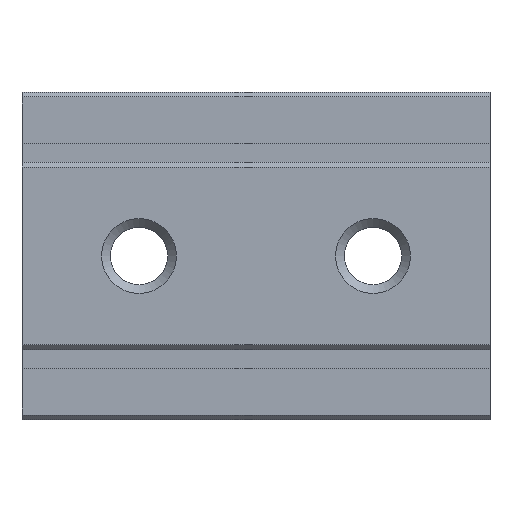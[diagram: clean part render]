
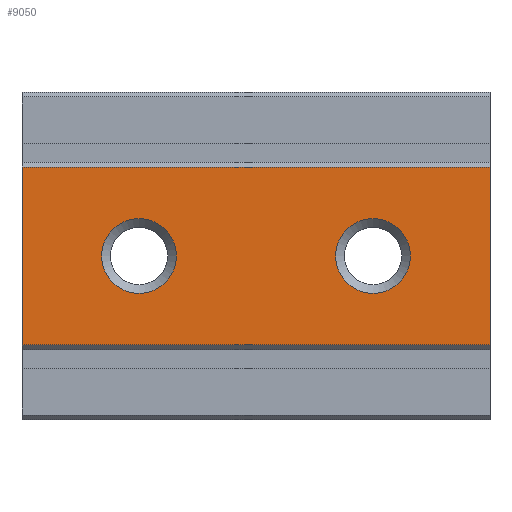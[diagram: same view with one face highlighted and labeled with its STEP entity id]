
A CAD part, front view. The second image highlights one B-rep face of the part: STEP entity #9050.
In plain terms, the highlighted planar face has unit normal (0, -1, 0).
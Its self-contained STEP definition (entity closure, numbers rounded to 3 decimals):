
#43=PLANE('',#9589);
#260=LINE('',#13788,#1066);
#261=LINE('',#13794,#1067);
#262=LINE('',#13796,#1068);
#263=LINE('',#13798,#1069);
#1066=VECTOR('',#10744,1000.);
#1067=VECTOR('',#10751,1000.);
#1068=VECTOR('',#10752,1000.);
#1069=VECTOR('',#10753,1000.);
#1887=ORIENTED_EDGE('',*,*,#4703,.F.);
#1888=ORIENTED_EDGE('',*,*,#4704,.F.);
#1889=ORIENTED_EDGE('',*,*,#4705,.T.);
#1890=ORIENTED_EDGE('',*,*,#4702,.F.);
#1891=ORIENTED_EDGE('',*,*,#4706,.F.);
#1892=ORIENTED_EDGE('',*,*,#4707,.T.);
#4702=EDGE_CURVE('',#6106,#6105,#260,.T.);
#4703=EDGE_CURVE('',#6107,#6107,#7037,.T.);
#4704=EDGE_CURVE('',#6108,#6108,#7038,.T.);
#4705=EDGE_CURVE('',#6109,#6105,#261,.T.);
#4706=EDGE_CURVE('',#6110,#6106,#262,.T.);
#4707=EDGE_CURVE('',#6110,#6109,#263,.T.);
#6105=VERTEX_POINT('',#13785);
#6106=VERTEX_POINT('',#13787);
#6107=VERTEX_POINT('',#13791);
#6108=VERTEX_POINT('',#13793);
#6109=VERTEX_POINT('',#13795);
#6110=VERTEX_POINT('',#13797);
#7037=CIRCLE('',#9590,0.8);
#7038=CIRCLE('',#9591,0.8);
#7648=EDGE_LOOP('',(#1887));
#7649=EDGE_LOOP('',(#1888));
#7650=EDGE_LOOP('',(#1889,#1890,#1891,#1892));
#8200=FACE_BOUND('',#7648,.T.);
#8201=FACE_BOUND('',#7649,.T.);
#8202=FACE_BOUND('',#7650,.T.);
#9050=ADVANCED_FACE('',(#8200,#8201,#8202),#43,.F.);
#9589=AXIS2_PLACEMENT_3D('',#13789,#10745,#10746);
#9590=AXIS2_PLACEMENT_3D('',#13790,#10747,#10748);
#9591=AXIS2_PLACEMENT_3D('',#13792,#10749,#10750);
#10744=DIRECTION('',(-1.,0.,0.));
#10745=DIRECTION('',(0.,1.,0.));
#10746=DIRECTION('',(0.,0.,1.));
#10747=DIRECTION('',(0.,-1.,0.));
#10748=DIRECTION('',(0.,0.,-1.));
#10749=DIRECTION('',(0.,-1.,0.));
#10750=DIRECTION('',(0.,0.,-1.));
#10751=DIRECTION('',(0.,0.,-1.));
#10752=DIRECTION('',(0.,0.,-1.));
#10753=DIRECTION('',(-1.,0.,0.));
#13785=CARTESIAN_POINT('',(-5.,0.,-1.9));
#13787=CARTESIAN_POINT('',(5.,0.,-1.9));
#13788=CARTESIAN_POINT('',(5.,0.,-1.9));
#13789=CARTESIAN_POINT('',(5.,0.,1.9));
#13790=CARTESIAN_POINT('',(2.5,0.,0.));
#13791=CARTESIAN_POINT('',(2.5,0.,-0.8));
#13792=CARTESIAN_POINT('',(-2.5,0.,0.));
#13793=CARTESIAN_POINT('',(-2.5,0.,-0.8));
#13794=CARTESIAN_POINT('',(-5.,0.,1.9));
#13795=CARTESIAN_POINT('',(-5.,0.,1.9));
#13796=CARTESIAN_POINT('',(5.,0.,1.9));
#13797=CARTESIAN_POINT('',(5.,0.,1.9));
#13798=CARTESIAN_POINT('',(5.,0.,1.9));
